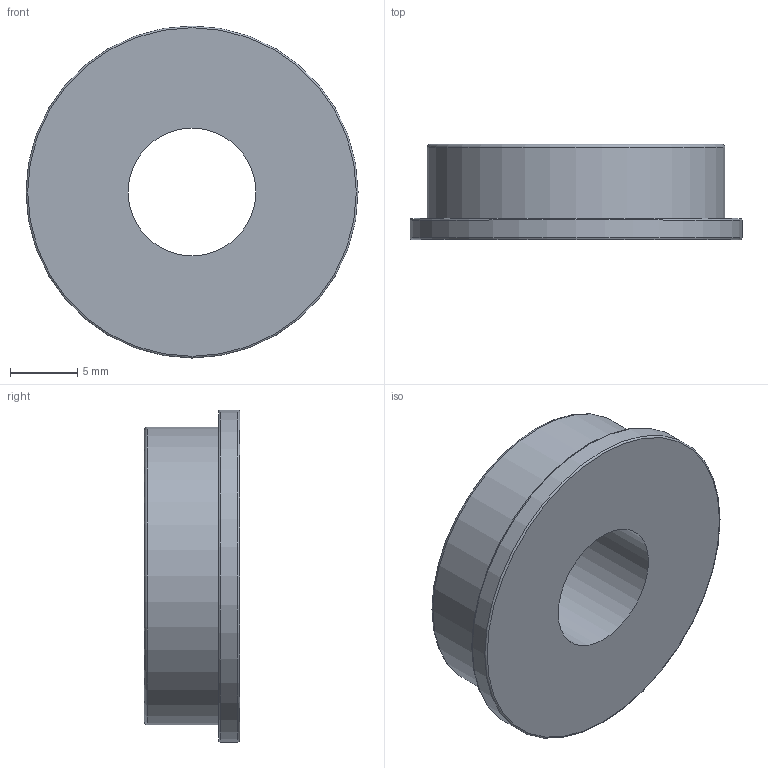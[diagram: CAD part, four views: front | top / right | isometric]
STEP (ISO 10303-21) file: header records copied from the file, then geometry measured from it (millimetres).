
FILE_DESCRIPTION(/* description */ (''),/* implementation_level */ '2;1');
FILE_NAME(/* name */ 'Bearing FR6ZZ .step',/* time_stamp */ '2022-12-29T16:20:12-08:00',/* author */ (''),/* organization */ (''),/* preprocessor_version */ 'ST-DEVELOPER v19.2',/* originating_system */ 'Autodesk Translation Framework v11.17.0.187',/* authorisation */ '');
FILE_SCHEMA (('AUTOMOTIVE_DESIGN { 1 0 10303 214 3 1 1 }'));
Length unit declared in the file: inch
Products named in the file (1): Bearing FR6ZZ
Bounding box: 24.77 x 7.11 x 24.77 mm (x, y, z)
Volume: 2398.4 mm3; surface area: 1526.7 mm2
Topology: 1 solids, 1 shells, 9 faces, 17 edges, 11 vertices
Faces by surface type: torus 3, cylinder 3, plane 3
Full cylindrical faces by diameter (mm): 9.525 x1, 22.225 x1, 24.765 x1
Entity records: 283 total; most frequent: DIRECTION 51, CARTESIAN_POINT 38, ORIENTED_EDGE 34, AXIS2_PLACEMENT_3D 24, EDGE_CURVE 17, CIRCLE 14, EDGE_LOOP 12, VERTEX_POINT 11
